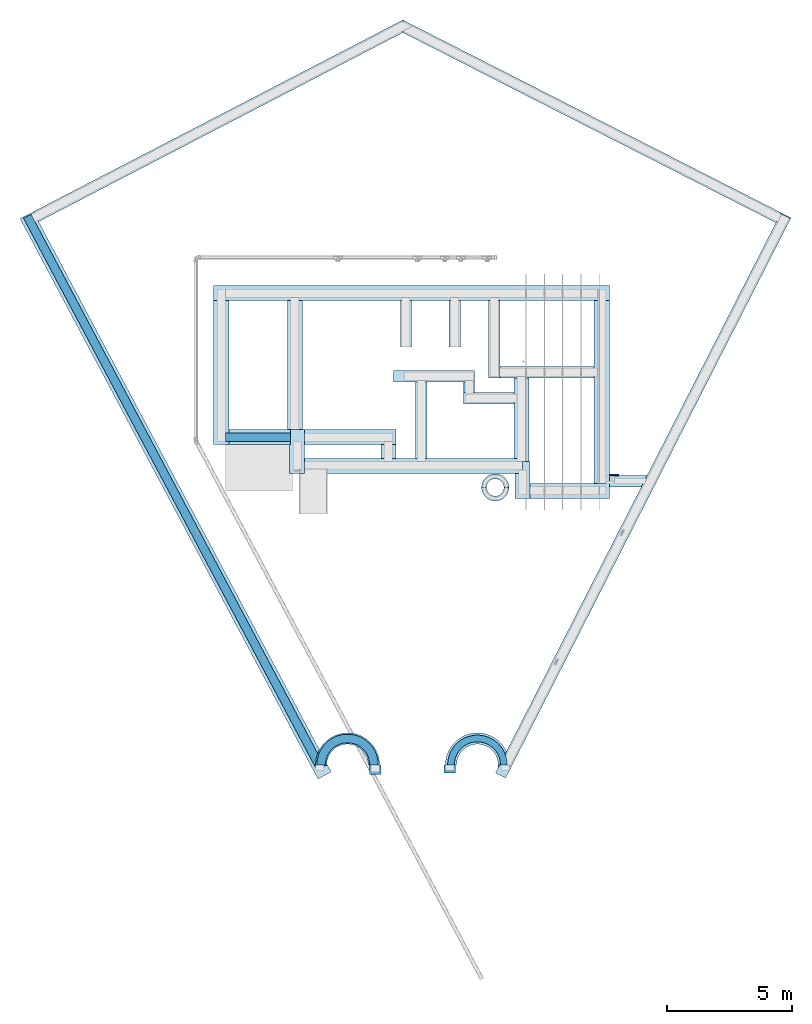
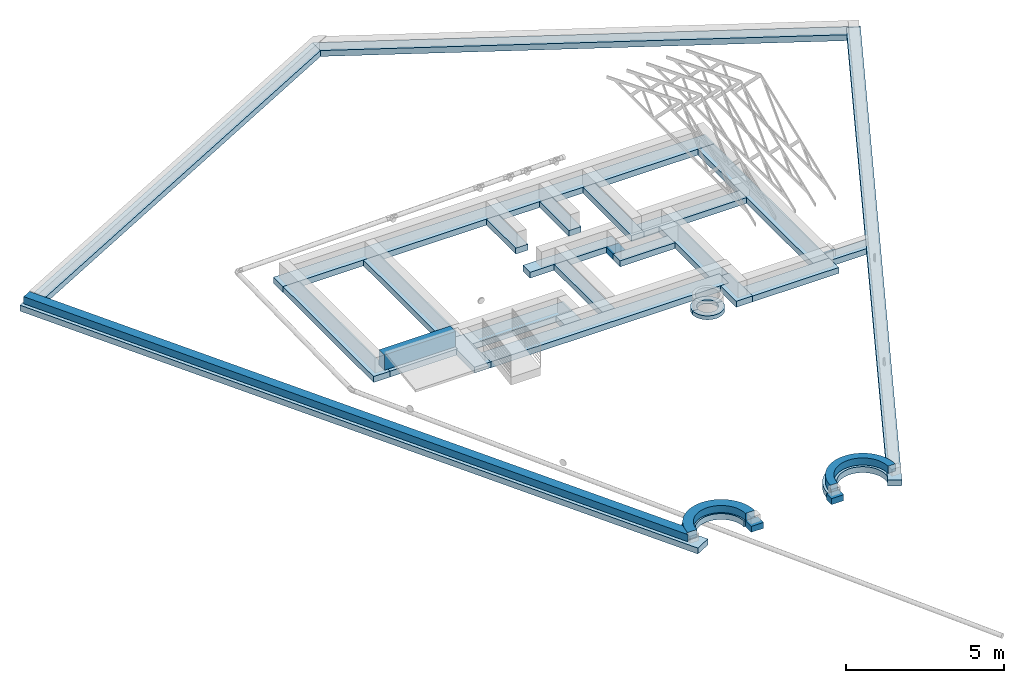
# One storey, part 1 of 8: 32 footings, 4 walls.
"""IFC2X3 building model written with IfcOpenShell, lengths in millimetres."""

from ifc_helpers import new_model, entity, si_unit, converted_unit, derived_unit, direction, frame, frame_2d, origin, origin_2d_with_axis, place, context, subcontext, project, spatial, polyline, circle_curve, parameter, trimmed, segment, composite_curve, rectangle, outline, extrude, material, layer, layer_set, layer_usage, type_object, element, save


model = new_model("IFC2X3")

# Units and contexts
model_context = context("Model", 3, precision=0.01, world=origin(), true_north=direction((6.12303176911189e-17, 1.0)))
body_context = subcontext(model_context, "Body", "Model", "MODEL_VIEW")
ifc_project = project(units=[si_unit("LENGTHUNIT", "METRE", prefix="MILLI"), si_unit("AREAUNIT", "SQUARE_METRE"), si_unit("VOLUMEUNIT", "CUBIC_METRE"), converted_unit("PLANEANGLEUNIT", "DEGREE", entity("IfcRatioMeasure", 0.0174532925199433), si_unit("PLANEANGLEUNIT", "RADIAN"), dimensions=[0, 0, 0, 0, 0, 0, 0]), si_unit("MASSUNIT", "GRAM", prefix="KILO"), derived_unit("MASSDENSITYUNIT", [(si_unit("MASSUNIT", "GRAM", prefix="KILO"), 1), (si_unit("LENGTHUNIT", "METRE"), -3)]), si_unit("TIMEUNIT", "SECOND"), si_unit("FREQUENCYUNIT", "HERTZ"), si_unit("THERMODYNAMICTEMPERATUREUNIT", "DEGREE_CELSIUS"), derived_unit("THERMALTRANSMITTANCEUNIT", [(si_unit("MASSUNIT", "GRAM", prefix="KILO"), 1), (si_unit("THERMODYNAMICTEMPERATUREUNIT", "KELVIN"), -1), (si_unit("TIMEUNIT", "SECOND"), -3)]), derived_unit("VOLUMETRICFLOWRATEUNIT", [(si_unit("LENGTHUNIT", "METRE"), 3), (si_unit("TIMEUNIT", "SECOND"), -1)]), si_unit("ELECTRICCURRENTUNIT", "AMPERE"), si_unit("ELECTRICVOLTAGEUNIT", "VOLT"), si_unit("POWERUNIT", "WATT"), si_unit("FORCEUNIT", "NEWTON", prefix="KILO"), si_unit("ILLUMINANCEUNIT", "LUX"), si_unit("LUMINOUSFLUXUNIT", "LUMEN"), si_unit("LUMINOUSINTENSITYUNIT", "CANDELA"), derived_unit("USERDEFINED", [(si_unit("MASSUNIT", "GRAM", prefix="KILO"), -1), (si_unit("LENGTHUNIT", "METRE"), -2), (si_unit("TIMEUNIT", "SECOND"), 3), (si_unit("LUMINOUSFLUXUNIT", "LUMEN"), 1)]), derived_unit("LINEARVELOCITYUNIT", [(si_unit("LENGTHUNIT", "METRE"), 1), (si_unit("TIMEUNIT", "SECOND"), -1)]), si_unit("PRESSUREUNIT", "PASCAL"), derived_unit("USERDEFINED", [(si_unit("LENGTHUNIT", "METRE"), -2), (si_unit("MASSUNIT", "GRAM", prefix="KILO"), 1), (si_unit("TIMEUNIT", "SECOND"), -2)])], contexts=[model_context])

# Site, building, storey
site_placement = place(None, origin())
site = spatial("IfcSite", under=ifc_project, at=site_placement, Name="Surface", CompositionType="ELEMENT")
building_placement = place(site_placement, origin())
building = spatial("IfcBuilding", under=site, at=building_placement, CompositionType="ELEMENT")
storey_placement = place(building_placement, frame((0.0, 0.0, -445.0)))
storey = spatial("IfcBuildingStorey", under=building, at=storey_placement, Name="T.O.F", CompositionType="ELEMENT", Elevation=-445.0)

# Footings
ifc_material_1 = material(Name="Concrete 10Mpa")
footing_1_placement = place(storey_placement, origin())
element("IfcFooting", 1, at=footing_1_placement, inside=storey, material=ifc_material_1, Name="Wall Foundation:R.C Footing - 600 X 230", ObjectType="Wall Foundation:R.C Footing - 600 X 230", PredefinedType="STRIP_FOOTING", context=body_context, shape_type="SweptSolid", body=[
    extrude(rectangle(XDim=15810.0, YDim=600.0, at=frame_2d((22.8571428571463, -214.285714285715), x_axis=(1.0, 0.0))), frame((-4289.01802722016, 10441.5543748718, -230.0), z_axis=(0.0, 0.0, 1.0), x_axis=(-1.0, 0.0, 0.0)), (0.0, 0.0, 1.0), 230.0),
])
footing_2_placement = place(storey_placement, origin())
element("IfcFooting", 2, at=footing_2_placement, inside=storey, material=ifc_material_1, Name="Wall Foundation:R.C Footing - 600 X 230", ObjectType="Wall Foundation:R.C Footing - 600 X 230", PredefinedType="STRIP_FOOTING", context=body_context, shape_type="SweptSolid", body=[
    extrude(rectangle(XDim=5755.0, YDim=600.0, at=frame_2d((455.5, 59.9999999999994), x_axis=(1.0, 0.0))), frame((-11856.8751700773, 7022.84008915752, -230.0), z_axis=(0.0, 0.0, 1.0), x_axis=(0.0, 1.0, 0.0)), (0.0, 0.0, 1.0), 230.0),
])
footing_3_placement = place(storey_placement, origin())
element("IfcFooting", 3, at=footing_3_placement, inside=storey, material=ifc_material_1, Name="Wall Foundation:R.C Footing - 600 X 230", ObjectType="Wall Foundation:R.C Footing - 600 X 230", PredefinedType="STRIP_FOOTING", context=body_context, shape_type="SweptSolid", body=[
    extrude(rectangle(XDim=2475.0, YDim=600.000000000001, at=frame_2d((383.333333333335, -1.33582034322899e-12), x_axis=(1.0, 0.0))), frame((-9996.04183674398, 4900.84008915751, -230.0), z_axis=(0.0, 0.0, 1.0), x_axis=(-1.0, 0.0, 0.0)), (0.0, 0.0, 1.0), 230.0),
])
footing_4_placement = place(storey_placement, origin())
element("IfcFooting", 4, at=footing_4_placement, inside=storey, material=ifc_material_1, Name="Wall Foundation:R.C Footing - 600 X 230", ObjectType="Wall Foundation:R.C Footing - 600 X 230", PredefinedType="STRIP_FOOTING", context=body_context, shape_type="SweptSolid", body=[
    extrude(outline(polyline([(-266.111111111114, -716.666666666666), (-181.111111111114, -716.666666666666), (288.888888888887, -716.666666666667), (288.888888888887, -116.666666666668), (333.888888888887, -116.666666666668), (333.888888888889, 1033.33333333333), (-266.111111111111, 1033.33333333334), (-266.111111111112, 433.333333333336), (-266.111111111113, -116.666666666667), (-266.111111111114, -716.666666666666)])), frame((-8852.98628118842, 4484.17342249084, -230.0), z_axis=(0.0, 0.0, 1.0), x_axis=(-1.0, 0.0, 0.0)), (0.0, 0.0, 1.0), 230.0),
])
footing_5_placement = place(storey_placement, origin())
element("IfcFooting", 5, at=footing_5_placement, inside=storey, material=ifc_material_1, Name="Wall Foundation:R.C Footing - 600 X 230", ObjectType="Wall Foundation:R.C Footing - 600 X 230", PredefinedType="STRIP_FOOTING", context=body_context, shape_type="SweptSolid", body=[
    extrude(rectangle(XDim=8720.00000000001, YDim=600.0, at=frame_2d((1002.27272727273, 124.545454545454), x_axis=(1.0, 0.0))), frame((-3224.60244280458, 3875.38554370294, -230.0), z_axis=(0.0, 0.0, 1.0), x_axis=(-1.0, 0.0, 0.0)), (0.0, 0.0, 1.0), 230.0),
])
footing_6_placement = place(storey_placement, origin())
element("IfcFooting", 6, at=footing_6_placement, inside=storey, material=ifc_material_1, Name="Wall Foundation:R.C Footing - 600 X 230", ObjectType="Wall Foundation:R.C Footing - 600 X 230", PredefinedType="STRIP_FOOTING", context=body_context, shape_type="SweptSolid", body=[
    extrude(outline(polyline([(-231.875000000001, -593.749999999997), (-176.875000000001, -593.749999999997), (68.1249999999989, -593.749999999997), (68.1250000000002, -123.749999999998), (368.125, -123.749999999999), (368.125000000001, 876.249999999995), (-231.874999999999, 876.249999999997), (-231.875, 276.249999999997), (-231.875000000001, -593.749999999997)])), frame((201.249829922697, 3327.09008915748, -230.0), z_axis=(0.0, 0.0, 1.0), x_axis=(-1.0, 0.0, 0.0)), (0.0, 0.0, 1.0), 230.0),
])
footing_7_placement = place(storey_placement, origin())
element("IfcFooting", 7, at=footing_7_placement, inside=storey, material=ifc_material_1, Name="Wall Foundation:R.C Footing - 600 X 230", ObjectType="Wall Foundation:R.C Footing - 600 X 230", PredefinedType="STRIP_FOOTING", context=body_context, shape_type="SweptSolid", body=[
    extrude(rectangle(XDim=3160.0, YDim=600.0, at=frame_2d((426.666666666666, 77.6632565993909), x_axis=(1.0, 0.0))), frame((2439.79149658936, 2828.50334575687, -230.0), z_axis=(0.0, 0.0, 1.0), x_axis=(-1.0, 0.0, 0.0)), (0.0, 0.0, 1.0), 230.0),
])
footing_8_placement = place(storey_placement, origin())
element("IfcFooting", 8, at=footing_8_placement, inside=storey, material=ifc_material_1, Name="Wall Foundation:R.C Footing - 600 X 230", ObjectType="Wall Foundation:R.C Footing - 600 X 230", PredefinedType="STRIP_FOOTING", context=body_context, shape_type="SweptSolid", body=[
    extrude(rectangle(XDim=7305.00000000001, YDim=600.0, at=frame_2d((-629.755115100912, -5.6843418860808e-14), x_axis=(1.0, 0.0))), frame((3293.1248299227, 6073.58497405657, -230.0), z_axis=(0.0, 0.0, 1.0), x_axis=(0.0, -1.0, 0.0)), (0.0, 0.0, 1.0), 230.0),
])
footing_9_placement = place(storey_placement, origin())
element("IfcFooting", 9, at=footing_9_placement, inside=storey, material=ifc_material_1, Name="Wall Foundation:R.C Footing - 600 X 230", ObjectType="Wall Foundation:R.C Footing - 600 X 230", PredefinedType="STRIP_FOOTING", context=body_context, shape_type="SweptSolid", body=[
    extrude(outline(polyline([(-361.249999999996, -1841.25000000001), (238.750000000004, -1841.25000000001), (238.750000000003, -1261.25), (238.750000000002, -811.249999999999), (238.749999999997, 1373.75000000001), (-116.250000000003, 1373.75000000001), (-116.250000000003, 1503.75000000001), (-361.250000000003, 1503.75000000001), (-361.249999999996, -1841.25000000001)])), frame((16.8748299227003, 5424.59008915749, -230.0), z_axis=(0.0, 0.0, 1.0), x_axis=(-1.0, 0.0, 0.0)), (0.0, 0.0, 1.0), 230.0),
])
footing_10_placement = place(storey_placement, origin())
element("IfcFooting", 10, at=footing_10_placement, inside=storey, material=ifc_material_1, Name="Wall Foundation:R.C Footing - 600 X 230", ObjectType="Wall Foundation:R.C Footing - 600 X 230", PredefinedType="STRIP_FOOTING", context=body_context, shape_type="SweptSolid", body=[
    extrude(rectangle(XDim=3655.00000000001, YDim=600.0, at=frame_2d((245.500000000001, -60.0), x_axis=(1.0, 0.0))), frame((-6513.87517007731, 4840.8400891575, -230.0), z_axis=(0.0, 0.0, 1.0), x_axis=(-1.0, 0.0, 0.0)), (0.0, 0.0, 1.0), 230.0),
])
footing_11_placement = place(storey_placement, origin())
element("IfcFooting", 11, at=footing_11_placement, inside=storey, material=ifc_material_1, Name="Wall Foundation:R.C Footing - 600 X 230", ObjectType="Wall Foundation:R.C Footing - 600 X 230", PredefinedType="STRIP_FOOTING", context=body_context, shape_type="SweptSolid", body=[
    extrude(rectangle(XDim=550.000000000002, YDim=600.0, at=frame_2d((2.55795384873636e-13, 5.40012479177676e-13), x_axis=(1.0, 0.0))), frame((-5231.8751700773, 4325.8400891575, -230.0), z_axis=(0.0, 0.0, 1.0), x_axis=(0.0, 1.0, 0.0)), (0.0, 0.0, 1.0), 230.0),
])
footing_12_placement = place(storey_placement, origin())
element("IfcFooting", 12, at=footing_12_placement, inside=storey, material=ifc_material_1, Name="Wall Foundation:R.C Footing - 450 X 230", ObjectType="Wall Foundation:R.C Footing - 450 X 230", PredefinedType="STRIP_FOOTING", context=body_context, shape_type="SweptSolid", body=[
    extrude(rectangle(XDim=3250.0, YDim=450.000000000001, at=frame_2d((-22.1428571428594, 96.4285714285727), x_axis=(1.0, 0.0))), frame((-3389.73231293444, 7244.41151772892, -230.0)), (0.0, 0.0, 1.0), 230.0),
])
footing_13_placement = place(storey_placement, origin())
element("IfcFooting", 13, at=footing_13_placement, inside=storey, material=ifc_material_1, Name="Wall Foundation:R.C Footing - 450 X 230", ObjectType="Wall Foundation:R.C Footing - 450 X 230", PredefinedType="STRIP_FOOTING", context=body_context, shape_type="SweptSolid", body=[
    extrude(rectangle(XDim=2015.0, YDim=450.000000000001, at=frame_2d((111.500000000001, -45.0000000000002), x_axis=(1.0, 0.0))), frame((-1340.8751700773, 6505.84008915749, -230.0)), (0.0, 0.0, 1.0), 230.0),
])
footing_14_placement = place(storey_placement, origin())
element("IfcFooting", 14, at=footing_14_placement, inside=storey, material=ifc_material_1, Name="Wall Foundation:R.C Footing - 450 X 230", ObjectType="Wall Foundation:R.C Footing - 450 X 230", PredefinedType="STRIP_FOOTING", context=body_context, shape_type="SweptSolid", body=[
    extrude(rectangle(XDim=429.999999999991, YDim=450.0, at=frame_2d((5.40012479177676e-13, 1.27897692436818e-13), x_axis=(1.0, 0.0))), frame((-2011.8751700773, 6900.84008915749, -230.0), z_axis=(0.0, 0.0, 1.0), x_axis=(0.0, -1.0, 0.0)), (0.0, 0.0, 1.0), 230.0),
])
footing_15_placement = place(storey_placement, origin())
element("IfcFooting", 15, at=footing_15_placement, inside=storey, material=ifc_material_1, Name="Wall Foundation:R.C Footing - 450 X 230", ObjectType="Wall Foundation:R.C Footing - 450 X 230", PredefinedType="STRIP_FOOTING", context=body_context, shape_type="SweptSolid", body=[
    extrude(rectangle(XDim=3065.0, YDim=450.0, at=frame_2d((7.95807864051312e-13, 0.0), x_axis=(1.0, 0.0))), frame((-3921.8751700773, 5583.34008915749, -230.0), z_axis=(0.0, 0.0, 1.0), x_axis=(0.0, -1.0, 0.0)), (0.0, 0.0, 1.0), 230.0),
])
footing_16_placement = place(storey_placement, origin())
element("IfcFooting", 16, at=footing_16_placement, inside=storey, material=ifc_material_1, Name="Wall Foundation:R.C Footing - 450 X 230", ObjectType="Wall Foundation:R.C Footing - 450 X 230", PredefinedType="STRIP_FOOTING", context=body_context, shape_type="SweptSolid", body=[
    extrude(rectangle(XDim=1855.0, YDim=450.0, at=frame_2d((5.6843418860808e-13, 5.54223333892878e-13), x_axis=(1.0, 0.0))), frame((-4531.8751700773, 9428.3400891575, -230.0), z_axis=(0.0, 0.0, 1.0), x_axis=(0.0, 1.0, 0.0)), (0.0, 0.0, 1.0), 230.0),
])
footing_17_placement = place(storey_placement, origin())
element("IfcFooting", 17, at=footing_17_placement, inside=storey, material=ifc_material_1, Name="Wall Foundation:R.C Footing - 450 X 230", ObjectType="Wall Foundation:R.C Footing - 450 X 230", PredefinedType="STRIP_FOOTING", context=body_context, shape_type="SweptSolid", body=[
    extrude(rectangle(XDim=1855.00000000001, YDim=450.0, at=frame_2d((1.64845914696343e-12, 1.27897692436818e-13), x_axis=(1.0, 0.0))), frame((-2581.87517007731, 9428.34008915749, -230.0), z_axis=(0.0, 0.0, 1.0), x_axis=(0.0, 1.0, 0.0)), (0.0, 0.0, 1.0), 230.0),
])
footing_18_placement = place(storey_placement, origin())
element("IfcFooting", 18, at=footing_18_placement, inside=storey, material=ifc_material_1, Name="Wall Foundation:R.C Footing - 450 X 230", ObjectType="Wall Foundation:R.C Footing - 450 X 230", PredefinedType="STRIP_FOOTING", context=body_context, shape_type="SweptSolid", body=[
    extrude(rectangle(XDim=3090.0, YDim=450.0, at=frame_2d((218.999999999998, 44.9999999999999), x_axis=(1.0, 0.0))), frame((-956.875170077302, 8591.8400891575, -230.0), z_axis=(0.0, 0.0, 1.0), x_axis=(0.0, 1.0, 0.0)), (0.0, 0.0, 1.0), 230.0),
])
footing_19_placement = place(storey_placement, origin())
element("IfcFooting", 19, at=footing_19_placement, inside=storey, material=ifc_material_1, Name="Wall Foundation:R.C Footing - 600 X 230", ObjectType="Wall Foundation:R.C Footing - 600 X 230", PredefinedType="STRIP_FOOTING", context=body_context, shape_type="SweptSolid", body=[
    extrude(rectangle(XDim=5155.0, YDim=600.0, at=frame_2d((-515.499999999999, 34.0000000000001), x_axis=(1.0, 0.0))), frame((-9005.87517007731, 7262.84008915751, -230.0), z_axis=(0.0, 0.0, 1.0), x_axis=(0.0, -1.0, 0.0)), (0.0, 0.0, 1.0), 230.0),
])
footing_20_placement = place(storey_placement, origin())
element("IfcFooting", 20, at=footing_20_placement, inside=storey, material=ifc_material_1, Name="Wall Foundation:R.C Footing - 450 X 230", ObjectType="Wall Foundation:R.C Footing - 450 X 230", PredefinedType="STRIP_FOOTING", context=body_context, shape_type="SweptSolid", body=[
    extrude(rectangle(XDim=3770.00000000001, YDim=449.999999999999, at=frame_2d((-343.333333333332, -75.0000000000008), x_axis=(1.0, 0.0))), frame((764.791496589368, 7415.84008915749, -230.0), z_axis=(0.0, 0.0, 1.0), x_axis=(-1.0, 0.0, 0.0)), (0.0, 0.0, 1.0), 230.0),
])
footing_21_placement = place(storey_placement, origin())
element("IfcFooting", 21, at=footing_21_placement, inside=storey, material=ifc_material_1, Name="Wall Foundation:R.C Footing - 450 X 230", ObjectType="Wall Foundation:R.C Footing - 450 X 230", PredefinedType="STRIP_FOOTING", context=body_context, shape_type="SweptSolid", body=[
    extrude(rectangle(XDim=25089.1866109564, YDim=450.0, at=frame_2d((1186.47767441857, -125.000000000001), x_axis=(1.0, 0.0))), frame((4292.03096987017, 1551.72611078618, -230.0), z_axis=(0.0, 0.0, 1.0), x_axis=(0.453990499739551, 0.891006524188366, 0.0)), (0.0, 0.0, 1.0), 230.0),
])
footing_22_placement = place(storey_placement, origin())
element("IfcFooting", 22, at=footing_22_placement, inside=storey, material=ifc_material_1, Name="Wall Foundation:R.C Footing - 450 X 230", ObjectType="Wall Foundation:R.C Footing - 450 X 230", PredefinedType="STRIP_FOOTING", context=body_context, shape_type="SweptSolid", body=[
    extrude(rectangle(XDim=374.999999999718, YDim=449.999999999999, at=frame_2d((-37.4999999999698, 34.0000000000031), x_axis=(1.0, 0.0))), frame((-5722.87517007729, -8349.15991084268, -230.0), z_axis=(0.0, 0.0, 1.0), x_axis=(0.0, 1.0, 0.0)), (0.0, 0.0, 1.0), 230.0),
])
footing_23_placement = place(storey_placement, origin())
element("IfcFooting", 23, at=footing_23_placement, inside=storey, material=ifc_material_1, Name="Wall Foundation:R.C Footing - 450 X 230", ObjectType="Wall Foundation:R.C Footing - 450 X 230", PredefinedType="STRIP_FOOTING", context=body_context, shape_type="SweptSolid", body=[
    extrude(rectangle(XDim=320.000000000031, YDim=450.0, at=frame_2d((-32.000000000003, -33.9999999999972), x_axis=(1.0, 0.0))), frame((-2821.30297205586, -8327.1599108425, -230.0), z_axis=(0.0, 0.0, 1.0), x_axis=(0.0, 1.0, 0.0)), (0.0, 0.0, 1.0), 230.0),
])
footing_24_placement = place(storey_placement, origin())
element("IfcFooting", 24, at=footing_24_placement, inside=storey, material=ifc_material_1, Name="Wall Foundation:R.C Footing - 450 X 230", ObjectType="Wall Foundation:R.C Footing - 450 X 230", PredefinedType="STRIP_FOOTING", context=body_context, shape_type="SweptSolid", body=[
    extrude(outline(composite_curve([segment(polyline([(-1077.11564102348, -79.6916955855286), (-682.115641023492, -79.6916955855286)]), True, "CONTINUOUS"), segment(polyline([(-682.115641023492, -79.6916955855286), (-627.115641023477, -79.6916955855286)]), True, "CONTINUOUS"), segment(trimmed(circle_curve(frame_2d((202.884358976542, -79.6916955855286), x_axis=(-1.0, 0.0)), 830.000000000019), [parameter(170.426205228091)], [parameter(0.0)], True, "PARAMETER"), False, "CONTINUOUS"), segment(polyline([(1021.32429207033, -217.735441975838), (1365.02263100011, 456.810528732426)]), True, "CONTINUOUS"), segment(trimmed(circle_curve(frame_2d((202.884358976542, -79.6916955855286), x_axis=(-1.0, 0.0)), 1280.00000000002), [parameter(204.780453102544)], [parameter(0.0)], True, "PARAMETER"), True, "CONTINUOUS")], self_intersect=False)), frame((-1880.18733103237, -8119.46821525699, -230.0)), (0.0, 0.0, 1.0), 230.0),
])
footing_25_placement = place(storey_placement, origin())
element("IfcFooting", 25, at=footing_25_placement, inside=storey, material=ifc_material_1, Name="Wall Foundation:R.C Footing - 450 X 230", ObjectType="Wall Foundation:R.C Footing - 450 X 230", PredefinedType="STRIP_FOOTING", context=body_context, shape_type="SweptSolid", body=[
    extrude(outline(composite_curve([segment(polyline([(825.868880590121, -690.877756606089), (1275.86888059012, -690.877756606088)]), True, "CONTINUOUS"), segment(polyline([(1275.86888059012, -690.877756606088), (1270.84756164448, -577.610979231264)]), True, "CONTINUOUS"), segment(polyline([(1270.84756164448, -577.610979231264), (1255.8251731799, -465.24500019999)]), True, "CONTINUOUS"), segment(polyline([(1255.8251731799, -465.24500019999), (1230.91978879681, -354.649777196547)]), True, "CONTINUOUS"), segment(polyline([(1230.91978879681, -354.649777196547), (1196.3275826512, -246.694343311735)]), True, "CONTINUOUS"), segment(polyline([(1196.3275826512, -246.694343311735), (1152.31984994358, -142.22380785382)]), True, "CONTINUOUS"), segment(polyline([(1152.31984994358, -142.22380785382), (1099.24273047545, -42.0634893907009)]), True, "CONTINUOUS"), segment(polyline([(1099.24273047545, -42.0634893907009), (1030.4107526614, 62.8616645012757)]), True, "CONTINUOUS"), segment(polyline([(1030.4107526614, 62.8616645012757), (951.638123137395, 160.535864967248)]), True, "CONTINUOUS"), segment(polyline([(951.638123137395, 160.535864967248), (863.680318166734, 250.027822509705)]), True, "CONTINUOUS"), segment(polyline([(863.680318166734, 250.027822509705), (767.38262172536, 330.47749365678)]), True, "CONTINUOUS"), segment(polyline([(767.38262172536, 330.47749365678), (663.670466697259, 401.111731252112)]), True, "CONTINUOUS"), segment(polyline([(663.670466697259, 401.111731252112), (553.540541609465, 461.251714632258)]), True, "CONTINUOUS"), segment(polyline([(553.540541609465, 461.251714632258), (438.0512125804, 510.319473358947)]), True, "CONTINUOUS"), segment(polyline([(438.0512125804, 510.319473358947), (318.312352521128, 547.843441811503)]), True, "CONTINUOUS"), segment(polyline([(318.312352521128, 547.843441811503), (195.474675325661, 573.462991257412)]), True, "CONTINUOUS"), segment(polyline([(195.474675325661, 573.462991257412), (70.718677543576, 586.93189584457)]), True, "CONTINUOUS"), segment(polyline([(70.718677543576, 586.93189584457), (-54.7567061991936, 588.120699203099)]), True, "CONTINUOUS"), segment(polyline([(-54.7567061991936, 588.120699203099), (-179.745625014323, 577.017958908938)]), True, "CONTINUOUS"), segment(polyline([(-179.745625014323, 577.017958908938), (-303.046900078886, 553.730356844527)]), True, "CONTINUOUS"), segment(polyline([(-303.046900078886, 553.730356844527), (-423.475568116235, 518.481674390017)]), True, "CONTINUOUS"), segment(polyline([(-423.475568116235, 518.481674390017), (-539.874269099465, 471.610642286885)]), True, "CONTINUOUS"), segment(polyline([(-539.874269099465, 471.610642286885), (-651.124368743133, 413.567685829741)]), True, "CONTINUOUS"), segment(polyline([(-651.124368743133, 413.567685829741), (-756.156708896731, 344.910596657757)]), True, "CONTINUOUS"), segment(polyline([(-756.156708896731, 344.910596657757), (-853.961882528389, 266.29917273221)]), True, "CONTINUOUS"), segment(polyline([(-853.961882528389, 266.29917273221), (-943.59993455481, 178.488878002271)]), True, "CONTINUOUS"), segment(polyline([(-943.59993455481, 178.488878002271), (-1024.20939529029, 82.3235826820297)]), True, "CONTINUOUS"), segment(polyline([(-1024.20939529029, 82.3235826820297), (-1095.01555969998, -21.2725461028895)]), True, "CONTINUOUS"), segment(polyline([(-1095.01555969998, -21.2725461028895), (-1155.33793288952, -131.303925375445)]), True, "CONTINUOUS"), segment(polyline([(-1155.33793288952, -131.303925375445), (-1204.59677027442, -246.713123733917)]), True, "CONTINUOUS"), segment(polyline([(-1204.59677027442, -246.713123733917), (-1242.31864957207, -366.391023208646)]), True, "CONTINUOUS"), segment(polyline([(-1242.31864957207, -366.391023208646), (-1268.14102106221, -489.187477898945)]), True, "CONTINUOUS"), segment(polyline([(-1268.14102106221, -489.187477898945), (-1281.81568925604, -613.922315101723)]), True, "CONTINUOUS"), segment(polyline([(-1281.81568925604, -613.922315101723), (-1283.21121434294, -739.396935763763)]), True, "CONTINUOUS"), segment(polyline([(-1283.21121434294, -739.396935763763), (-833.534618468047, -722.339411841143)]), True, "CONTINUOUS"), segment(trimmed(circle_curve(frame_2d((-4.13111940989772, -690.877756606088), x_axis=(1.0, 0.0)), 830.000000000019), [parameter(5.30199091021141)], [parameter(182.17235182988)], True, "PARAMETER"), False, "CONTINUOUS"), segment(trimmed(circle_curve(frame_2d((-4.13111940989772, -690.877756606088), x_axis=(1.0, 0.0)), 830.000000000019), [parameter(0.0)], [parameter(5.30199091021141)], True, "PARAMETER"), False, "CONTINUOUS")], self_intersect=False)), frame((-6897.19146246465, -7508.93526397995, -230.0), z_axis=(0.0, 0.0, -1.0), x_axis=(-0.999281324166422, -0.0379056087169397, 0.0)), (0.0, 0.0, -1.0), 230.0),
])
footing_26_placement = place(storey_placement, origin())
element("IfcFooting", 26, at=footing_26_placement, inside=storey, material=ifc_material_1, Name="Wall Foundation:R.C Footing - 600 X 230", ObjectType="Wall Foundation:R.C Footing - 600 X 230", PredefinedType="STRIP_FOOTING", context=body_context, shape_type="SweptSolid", body=[
    extrude(outline(composite_curve([segment(polyline([(-8648.7476352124, 186.474403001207), (-8648.7476352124, -413.525596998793)]), True, "CONTINUOUS"), segment(polyline([(-8648.7476352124, -413.525596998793), (16722.2625206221, -413.525596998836)]), True, "CONTINUOUS"), segment(polyline([(16722.2625206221, -413.525596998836), (16716.2134644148, 186.474403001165)]), True, "CONTINUOUS"), segment(polyline([(16716.2134644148, 186.474403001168), (16266.1905955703, 186.474403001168)]), True, "CONTINUOUS"), segment(polyline([(16266.1905955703, 186.474403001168), (-7640.34254577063, 186.474403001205)]), True, "CONTINUOUS"), segment(trimmed(circle_curve(frame_2d((-8705.05773947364, 896.954210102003), x_axis=(0.435665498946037, -0.900108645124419)), 1280.00000000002), [parameter(3.56222124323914e-13)], [parameter(30.4573424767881)], True, "PARAMETER"), False, "CONTINUOUS"), segment(polyline([(-8147.40590082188, -255.18485565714), (-8343.45537534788, 149.864034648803)]), True, "CONTINUOUS"), segment(trimmed(circle_curve(frame_2d((-8705.05773947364, 896.954210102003), x_axis=(0.435665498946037, -0.900108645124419)), 830.000000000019), [parameter(3.56222124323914e-13)], [parameter(5.30199091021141)], True, "PARAMETER"), True, "CONTINUOUS"), segment(polyline([(-8275.96748824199, 186.474403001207), (-8648.7476352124, 186.474403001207)]), True, "CONTINUOUS")], self_intersect=False)), frame((-11745.6157918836, -934.144628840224, -230.0), z_axis=(0.0, 0.0, -1.0), x_axis=(-0.469471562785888, 0.882947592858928, 0.0)), (0.0, 0.0, -1.0), 230.0),
])
footing_27_placement = place(storey_placement, origin())
element("IfcFooting", 27, at=footing_27_placement, inside=storey, material=ifc_material_1, Name="Wall Foundation:R.C Footing - 450 X 230", ObjectType="Wall Foundation:R.C Footing - 450 X 230", PredefinedType="STRIP_FOOTING", context=body_context, shape_type="SweptSolid", body=[
    extrude(outline(polyline([(-982.554313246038, -202.663256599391), (148.955543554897, -202.663256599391), (528.955543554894, -202.663256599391), (528.955543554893, 113.316282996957), (528.955543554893, 247.336743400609), (-753.267860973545, 247.336743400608), (-982.554313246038, -202.663256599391)])), frame((4122.08037347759, 3164.15637215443, -230.0), z_axis=(0.0, 0.0, 1.0), x_axis=(-1.0, 0.0, 0.0)), (0.0, 0.0, 1.0), 230.0),
])
footing_28_placement = place(storey_placement, origin())
element("IfcFooting", 28, at=footing_28_placement, inside=storey, material=ifc_material_1, Name="Wall Foundation:R.C Footing - 450 X 230", ObjectType="Wall Foundation:R.C Footing - 450 X 230", PredefinedType="STRIP_FOOTING", context=body_context, shape_type="SweptSolid", body=[
    extrude(rectangle(XDim=59.9999999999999, YDim=379.999999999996, at=frame_2d((2.71782596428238e-13, -2.70006239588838e-13), x_axis=(1.0, 0.0))), frame((3783.1248299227, 3396.81962875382, -230.0), z_axis=(0.0, 0.0, 1.0), x_axis=(0.0, -1.0, 0.0)), (0.0, 0.0, 1.0), 230.0),
])
footing_29_placement = place(storey_placement, origin())
element("IfcFooting", 29, at=footing_29_placement, inside=storey, material=ifc_material_1, Name="Wall Foundation:R.C Footing - 450 X 230", ObjectType="Wall Foundation:R.C Footing - 450 X 230", PredefinedType="STRIP_FOOTING", context=body_context, shape_type="SweptSolid", body=[
    extrude(outline(polyline([(-8376.80458396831, -225.0), (8263.38313875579, -225.0), (8258.84634660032, 225.0), (-8145.42490138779, 225.0), (-8376.80458396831, -225.0)])), frame((-11990.2596524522, 17518.8943505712, -230.0), z_axis=(0.0, 0.0, 1.0), x_axis=(-0.887635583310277, -0.460546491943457, 0.0)), (0.0, 0.0, 1.0), 230.0),
])
footing_30_placement = place(storey_placement, origin())
element("IfcFooting", 30, at=footing_30_placement, inside=storey, material=ifc_material_1, Name="Wall Foundation:Footing -  200 X 150", ObjectType="Wall Foundation:Footing -  200 X 150", PredefinedType="STRIP_FOOTING", context=body_context, shape_type="SweptSolid", body=[
    extrude(outline(composite_curve([segment(trimmed(circle_curve(origin_2d_with_axis(), 545.0), [parameter(180.0)], [parameter(0.0)], True, "PARAMETER"), True, "CONTINUOUS"), segment(polyline([(545.0, 0.0), (345.0, 0.0)]), True, "CONTINUOUS"), segment(trimmed(circle_curve(origin_2d_with_axis(), 345.0), [parameter(180.0)], [parameter(0.0)], True, "PARAMETER"), False, "CONTINUOUS"), segment(polyline([(-345.0, 0.0), (-545.0, 0.0)]), True, "CONTINUOUS")], self_intersect=False)), frame((-964.151763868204, 2891.42863490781, -320.0), z_axis=(0.0, 0.0, -1.0), x_axis=(-1.0, 0.0, 0.0)), (0.0, 0.0, -1.0), 150.0),
])
footing_31_placement = place(storey_placement, origin())
element("IfcFooting", 31, at=footing_31_placement, inside=storey, material=ifc_material_1, Name="Wall Foundation:Footing -  200 X 150", ObjectType="Wall Foundation:Footing -  200 X 150", PredefinedType="STRIP_FOOTING", context=body_context, shape_type="SweptSolid", body=[
    extrude(outline(composite_curve([segment(trimmed(circle_curve(origin_2d_with_axis(), 545.0), [parameter(0.0)], [parameter(180.0)], True, "PARAMETER"), True, "CONTINUOUS"), segment(polyline([(-545.0, 0.0), (-345.0, 0.0)]), True, "CONTINUOUS"), segment(trimmed(circle_curve(origin_2d_with_axis(), 345.0), [parameter(0.0)], [parameter(180.0)], True, "PARAMETER"), False, "CONTINUOUS"), segment(polyline([(345.0, 0.0), (545.0, 0.0)]), True, "CONTINUOUS")], self_intersect=False)), frame((-964.151763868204, 2891.42863490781, -320.0)), (0.0, 0.0, 1.0), 150.0),
])
footing_32_placement = place(storey_placement, origin())
element("IfcFooting", 32, at=footing_32_placement, inside=storey, material=ifc_material_1, Name="Wall Foundation:R.C Footing - 450 X 230", ObjectType="Wall Foundation:R.C Footing - 450 X 230", PredefinedType="STRIP_FOOTING", context=body_context, shape_type="SweptSolid", body=[
    extrude(outline(polyline([(-5405.80093020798, -10150.6445742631), (-4899.80037930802, -10150.6445742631), (2752.42000405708, 4731.81672964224), (2394.70702612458, 4915.74454139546), (2600.4792470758, 5315.94173414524), (2557.99503225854, 5337.78614334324), (-5405.80093020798, -10150.6445742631)])), frame((5512.16822619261, 16208.1706636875, -230.0), z_axis=(0.0, 0.0, 1.0), x_axis=(0.00368592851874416, -0.999993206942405, 0.0)), (0.0, 0.0, 1.0), 230.0),
])

# Walls
ifc_material_2 = material(Name="Brickwork - 110mm (Stock)")
ifc_layer_1 = layer(ifc_material_2, 110.0)
ifc_material_3 = material(Name="Air Infiltration Barrier")
ifc_layer_2 = layer(ifc_material_3, 120.0)
ifc_material_4 = material(Name="Brickwork - Facebrick (Plettenberg Autumn)")
ifc_layer_3 = layer(ifc_material_4, 110.0)
ifc_layer_set_1 = layer_set([ifc_layer_1, ifc_layer_2, ifc_layer_3], Name="Basic Wall:BrickWall Foundation- 340mm (2coarses F.)")
ifc_layer_usage_1 = layer_usage(ifc_layer_set_1, "AXIS2", "NEGATIVE", 170.0)
wall_type_1 = type_object("IfcWallType", Name="Basic Wall:BrickWall Foundation- 340mm (2coarses F.)", PredefinedType="STANDARD", material=ifc_layer_set_1)
wall_1_placement = place(storey_placement, frame((-11746.8751700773, 4900.84008915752, 0.0)))
element("IfcWallStandardCase", 33, at=wall_1_placement, inside=storey, type_object=wall_type_1, material=ifc_layer_usage_1, Name="Basic Wall:BrickWall Foundation- 340mm (2coarses F.)", ObjectType="Basic Wall:BrickWall Foundation- 340mm (2coarses F.)", context=body_context, shape_type="SweptSolid", body=[
    extrude(rectangle(XDim=2605.0, YDim=340.000000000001, at=frame_2d((1302.5, 4.9737991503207e-13), x_axis=(-1.0, 0.0))), origin(), (0.0, 0.0, 1.0), 595.0),
])
ifc_layer_4 = layer(ifc_material_2, 110.0)
ifc_layer_5 = layer(ifc_material_3, 120.0)
ifc_layer_6 = layer(ifc_material_2, 110.0)
ifc_layer_set_2 = layer_set([ifc_layer_4, ifc_layer_5, ifc_layer_6], Name="Basic Wall:BrickWall Foundation- 340mm")
ifc_layer_usage_2 = layer_usage(ifc_layer_set_2, "AXIS2", "POSITIVE", -170.0)
wall_type_2 = type_object("IfcWallType", Name="Basic Wall:BrickWall Foundation- 340mm", PredefinedType="STANDARD", material=ifc_layer_set_2)
wall_2_placement = place(storey_placement, frame((-7921.87517007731, -8199.1599108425, 0.0)))
element("IfcWallStandardCase", 34, at=wall_2_placement, inside=storey, type_object=wall_type_2, material=ifc_layer_usage_2, Name="Basic Wall:BrickWall Foundation- 340mm", ObjectType="Basic Wall:BrickWall Foundation- 340mm", context=body_context, shape_type="SweptSolid", body=[
    extrude(outline(composite_curve([segment(trimmed(circle_curve(frame_2d((1055.0, 0.0), x_axis=(1.0, 0.0)), 1225.00000000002), [parameter(5.08888749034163e-14)], [parameter(180.0)], True, "PARAMETER"), True, "CONTINUOUS"), segment(polyline([(-170.0, 0.0), (170.0, 0.0)]), True, "CONTINUOUS"), segment(trimmed(circle_curve(frame_2d((1055.0, 0.0), x_axis=(1.0, 0.0)), 885.000000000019), [parameter(5.08888749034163e-14)], [parameter(180.0)], True, "PARAMETER"), False, "CONTINUOUS"), segment(polyline([(1940.0, 0.0), (2280.0, 0.0)]), True, "CONTINUOUS")], self_intersect=False)), origin(), (0.0, 0.0, 1.0), 275.0),
])
ifc_layer_usage_3 = layer_usage(ifc_layer_set_2, "AXIS2", "NEGATIVE", 170.0)
wall_3_placement = place(storey_placement, frame((-7996.77407929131, -8226.50615724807, 0.0), z_axis=(0.0, 0.0, 1.0), x_axis=(-0.46947156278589, 0.882947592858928, 0.0)))
element("IfcWallStandardCase", 35, at=wall_3_placement, inside=storey, type_object=wall_type_2, material=ifc_layer_usage_3, Name="Basic Wall:BrickWall Foundation- 340mm", ObjectType="Basic Wall:BrickWall Foundation- 340mm", context=body_context, shape_type="SweptSolid", body=[
    extrude(outline(composite_curve([segment(polyline([(24861.2689333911, -170.0), (24864.6967319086, 170.0)]), True, "CONTINUOUS"), segment(polyline([(24864.6967319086, 170.0), (0.0, 170.0)]), True, "CONTINUOUS"), segment(polyline([(0.0, 170.0), (94.6134961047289, 119.69311175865)]), True, "CONTINUOUS"), segment(polyline([(94.6134961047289, 119.69311175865), (68.7925601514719, 71.1309941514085)]), True, "CONTINUOUS"), segment(trimmed(circle_curve(frame_2d((-506.310104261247, -1010.4798071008), x_axis=(0.88294759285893, -0.469471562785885)), 1225.00000000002), [parameter(71.3226472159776)], [parameter(90.0000000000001)], True, "PARAMETER"), False, "CONTINUOUS"), segment(polyline([(384.879378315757, -170.0), (24521.2516547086, -170.0)]), True, "CONTINUOUS"), segment(polyline([(24521.2516547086, -170.0), (24861.2689333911, -170.0)]), True, "CONTINUOUS")], self_intersect=False)), origin(), (0.0, 0.0, 1.0), 275.0),
])
ifc_layer_7 = layer(ifc_material_2, 110.0)
ifc_layer_8 = layer(ifc_material_3, 50.0)
ifc_layer_9 = layer(ifc_material_2, 110.0)
ifc_layer_set_3 = layer_set([ifc_layer_7, ifc_layer_8, ifc_layer_9], Name="Basic Wall:BrickWall Foundation- 270mm 2")
ifc_layer_usage_4 = layer_usage(ifc_layer_set_3, "AXIS2", "POSITIVE", -135.0)
wall_type_3 = type_object("IfcWallType", Name="Basic Wall:BrickWall Foundation- 270mm 2", PredefinedType="STANDARD", material=ifc_layer_set_3)
wall_4_placement = place(storey_placement, frame((-2732.30297205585, -8199.15991084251, 0.0)))
element("IfcWallStandardCase", 36, at=wall_4_placement, inside=storey, type_object=wall_type_3, material=ifc_layer_usage_4, Name="Basic Wall:BrickWall Foundation- 270mm 2", ObjectType="Basic Wall:BrickWall Foundation- 270mm 2", context=body_context, shape_type="SweptSolid", body=[
    extrude(outline(composite_curve([segment(trimmed(circle_curve(frame_2d((1055.0, 0.0), x_axis=(1.0, 0.0)), 1190.00000000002), [parameter(3.56222124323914e-13)], [parameter(180.0)], True, "PARAMETER"), True, "CONTINUOUS"), segment(polyline([(-135.0, 0.0), (135.0, 0.0)]), True, "CONTINUOUS"), segment(trimmed(circle_curve(frame_2d((1055.0, 0.0), x_axis=(1.0, 0.0)), 920.000000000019), [parameter(3.56222124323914e-13)], [parameter(180.0)], True, "PARAMETER"), False, "CONTINUOUS"), segment(polyline([(1975.0, 0.0), (2245.0, 0.0)]), True, "CONTINUOUS")], self_intersect=False)), origin(), (0.0, 0.0, 1.0), 275.0),
])

save(model, "model.ifc")
